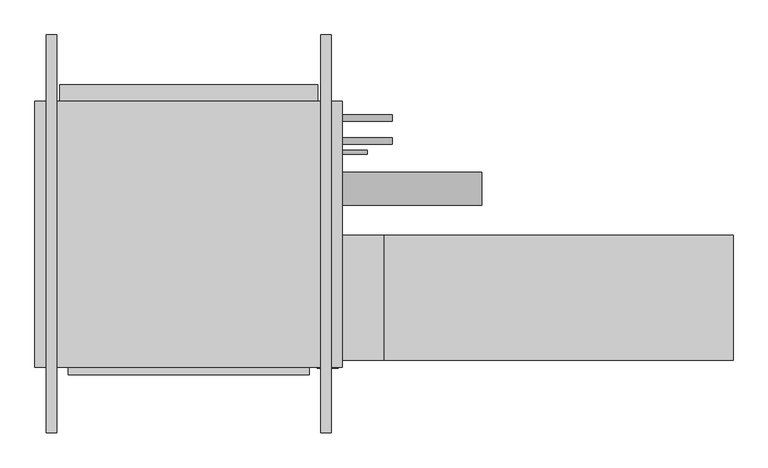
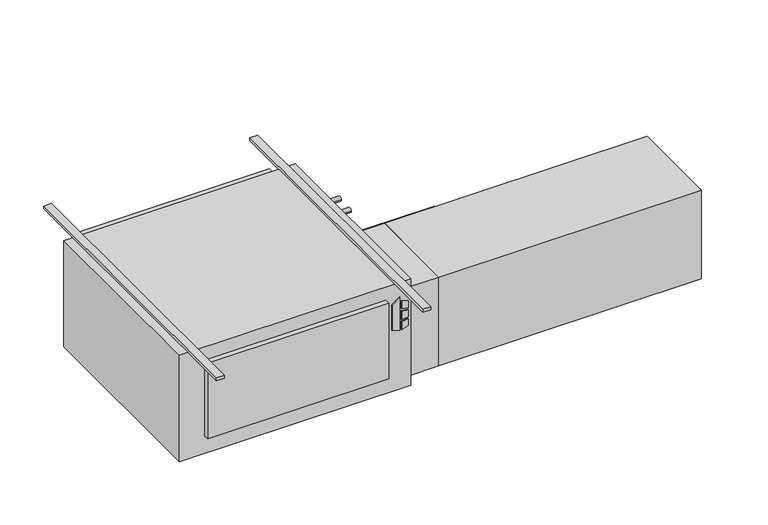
"""IFC4 building model written with IfcOpenShell, lengths in millimetres: proxy geometry."""

import ifcopenshell
import ifcopenshell.guid

model = None  # the IFC model being written
_history = None  # IfcOwnerHistory: only IFC2X3 demands one
_inside = {}  # id of a spatial element -> (the spatial element, [elements in it])
_under = {}  # id of a project, library or spatial element -> (it, [spatial elements below it])
_declared = {}  # id of a project -> (the project, [libraries it declares])
_typed = {}  # id of a type object -> (the type object, [elements of that type])
_made_of = {}  # id of a material, layer set ... -> (it, [elements and type objects made of it])


def new_model(schema):
    """Start an empty IFC model of exactly this schema.

    Asked for "IFC4X3", IfcOpenShell would pick the latest addendum, in which some entities
    have other attributes; the version numbers below select the first issue.
    IFC2X3 requires an IfcOwnerHistory on every rooted entity: one is made here for all.
    """
    global model, _history
    if schema == "IFC4X3":
        model = ifcopenshell.file(schema_version=(4, 3, 0, 0))
    else:
        model = ifcopenshell.file(schema=schema)
    _inside.clear()
    _under.clear()
    _declared.clear()
    _typed.clear()
    _made_of.clear()
    _history = None
    if model.schema == "IFC2X3":
        org = make("IfcOrganization", Name="unknown")
        user = make(
            "IfcPersonAndOrganization",
            ThePerson=make("IfcPerson", FamilyName="unknown"),
            TheOrganization=org,
        )
        app = make(
            "IfcApplication",
            ApplicationDeveloper=org,
            Version="unknown",
            ApplicationFullName="unknown",
            ApplicationIdentifier="unknown",
        )
        _history = make(
            "IfcOwnerHistory",
            OwningUser=user,
            OwningApplication=app,
            ChangeAction="ADDED",
            CreationDate=0,
        )
    return model


def make(cls, **values):
    """One entity of the class cls with the attributes given. An attribute that is None is left unset."""
    return model.create_entity(
        cls, **{name: value for name, value in values.items() if value is not None}
    )


def rooted(cls, **values):
    """An entity with a GlobalId (a new one), such as an element, a storey or a relation."""
    return make(cls, GlobalId=ifcopenshell.guid.new(), OwnerHistory=_history, **values)


def si_unit(unit_type, name, prefix=None):
    """IfcSIUnit, for example si_unit("LENGTHUNIT", "METRE", prefix="MILLI")."""
    return make("IfcSIUnit", UnitType=unit_type, Prefix=prefix, Name=name)


def assignment(units):
    """IfcUnitAssignment: the units of a project."""
    return None if units is None else make("IfcUnitAssignment", Units=units)


def point(xyz):
    """IfcCartesianPoint."""
    return None if xyz is None else make("IfcCartesianPoint", Coordinates=xyz)


def direction(xyz):
    """IfcDirection."""
    return None if xyz is None else make("IfcDirection", DirectionRatios=xyz)


def frame(location, z_axis=None, x_axis=None):
    """IfcAxis2Placement3D, a coordinate frame: its origin and axes. An axis left out is left unset."""
    return make(
        "IfcAxis2Placement3D",
        Location=point(location),
        Axis=direction(z_axis),
        RefDirection=direction(x_axis),
    )


def frame_2d(location, x_axis=None):
    """IfcAxis2Placement2D, a coordinate frame in the plane: its origin and x axis."""
    return make(
        "IfcAxis2Placement2D", Location=point(location), RefDirection=direction(x_axis)
    )


def origin():
    """The frame at (0, 0, 0) with its axes left unset."""
    return frame((0.0, 0.0, 0.0))


def origin_with_axes():
    """The frame at (0, 0, 0) with the z axis (0, 0, 1) and the x axis (1, 0, 0) written out."""
    return frame((0.0, 0.0, 0.0), z_axis=(0.0, 0.0, 1.0), x_axis=(1.0, 0.0, 0.0))


def place(relative_to, where):
    """IfcLocalPlacement: puts the frame where relative to a parent placement (None: the world)."""
    return make(
        "IfcLocalPlacement", PlacementRelTo=relative_to, RelativePlacement=where
    )


def context(
    kind, dimensions, precision=None, world=None, true_north=None, identifier=None
):
    """IfcGeometricRepresentationContext, for example the 3D "Model" context."""
    return make(
        "IfcGeometricRepresentationContext",
        ContextIdentifier=identifier,
        ContextType=kind,
        CoordinateSpaceDimension=dimensions,
        Precision=precision,
        WorldCoordinateSystem=world,
        TrueNorth=true_north,
    )


def project(units=None, contexts=None):
    """IfcProject with its units and contexts."""
    return rooted(
        "IfcProject",
        Name="project",
        RepresentationContexts=contexts,
        UnitsInContext=assignment(units),
    )


def spatial(cls, under=None, at=None, **own):
    """A site, building, storey or space (cls), placed at a placement, below another one or the project."""
    s = rooted(cls, ObjectPlacement=at, **own)
    if under is not None:
        _under.setdefault(under.id(), (under, []))[1].append(s)
    return s


def polyline(points):
    """IfcPolyline through the points."""
    return make("IfcPolyline", Points=[point(p) for p in points])


def circle_curve(where, radius):
    """IfcCircle in the frame where."""
    return make("IfcCircle", Position=where, Radius=radius)


def trimmed(basis, trim1, trim2, sense, master):
    """IfcTrimmedCurve: the piece of a basis curve between two trims."""
    return make(
        "IfcTrimmedCurve",
        BasisCurve=basis,
        Trim1=trim1,
        Trim2=trim2,
        SenseAgreement=sense,
        MasterRepresentation=master,
    )


def segment(curve, same_sense, transition):
    """IfcCompositeCurveSegment."""
    return make(
        "IfcCompositeCurveSegment",
        Transition=transition,
        SameSense=same_sense,
        ParentCurve=curve,
    )


def composite_curve(segments, self_intersect=None):
    """IfcCompositeCurve: segments joined end to end."""
    return make("IfcCompositeCurve", Segments=segments, SelfIntersect=self_intersect)


def outline(outer, holes=None, kind="AREA"):
    """IfcArbitraryClosedProfileDef: a profile drawn as a closed curve; with holes, ...WithVoids."""
    if holes is None:
        return make("IfcArbitraryClosedProfileDef", ProfileType=kind, OuterCurve=outer)
    return make(
        "IfcArbitraryProfileDefWithVoids",
        ProfileType=kind,
        OuterCurve=outer,
        InnerCurves=holes,
    )


def extrude(swept, where, along, depth):
    """IfcExtrudedAreaSolid: the profile swept, set in the frame where, extruded along a direction by depth."""
    return make(
        "IfcExtrudedAreaSolid",
        SweptArea=swept,
        Position=where,
        ExtrudedDirection=direction(along),
        Depth=depth,
    )


def shape(context_of_items, identifier, shape_type, items):
    """IfcShapeRepresentation: the items that make up one representation, for example the "Body"."""
    return make(
        "IfcShapeRepresentation",
        ContextOfItems=context_of_items,
        RepresentationIdentifier=identifier,
        RepresentationType=shape_type,
        Items=items,
    )


def source(mapping_origin, context_of_items, identifier, shape_type, items):
    """IfcRepresentationMap: a shape defined once, which mapped items show again and again."""
    return make(
        "IfcRepresentationMap",
        MappingOrigin=mapping_origin,
        MappedRepresentation=shape(context_of_items, identifier, shape_type, items),
    )


def transform(
    local_origin,
    x_axis=None,
    y_axis=None,
    z_axis=None,
    scale=None,
    scale2=None,
    scale3=None,
    uniform=True,
):
    """IfcCartesianTransformationOperator3D, or its non-uniform kind. x_axis, y_axis, z_axis: its Axis1, 2, 3."""
    if uniform:
        return make(
            "IfcCartesianTransformationOperator3D",
            Axis1=direction(x_axis),
            Axis2=direction(y_axis),
            LocalOrigin=point(local_origin),
            Scale=scale,
            Axis3=direction(z_axis),
        )
    return make(
        "IfcCartesianTransformationOperator3DnonUniform",
        Axis1=direction(x_axis),
        Axis2=direction(y_axis),
        LocalOrigin=point(local_origin),
        Scale=scale,
        Axis3=direction(z_axis),
        Scale2=scale2,
        Scale3=scale3,
    )


def mapped(mapping_source, mapping_target):
    """IfcMappedItem: shows the shape of a source again, moved by a transform."""
    return make(
        "IfcMappedItem", MappingSource=mapping_source, MappingTarget=mapping_target
    )


def made_of(thing, what):
    """Note that an element or type object is made of a material, layer set ...; save() writes the relation."""
    if what is not None:
        _made_of.setdefault(what.id(), (what, []))[1].append(thing)
    return thing


def element(
    cls,
    number,
    at=None,
    inside=None,
    cuts=None,
    type_object=None,
    material=None,
    context=None,
    identifier="Body",
    shape_type=None,
    held_by="IfcProductDefinitionShape",
    body=None,
    shapes=None,
    **own,
):
    """One element of the class cls, such as IfcWall. Its Tag is "e" and its number.

    at: its placement. inside: the storey or other place that contains it. cuts: it is an
    opening in that element (IfcRelVoidsElement). A single representation is given by context,
    identifier, shape_type and body (its items); several are given by shapes. held_by: the class
    of the entity that holds the representations. save() writes the other relations.
    """
    e = rooted(cls, Tag="e%d" % number, ObjectPlacement=at, **own)
    if body is not None:
        shapes = [shape(context, identifier, shape_type, body)]
    if shapes is not None:
        e.Representation = make(held_by, Representations=shapes)
    if inside is not None:
        _inside.setdefault(inside.id(), (inside, []))[1].append(e)
    if cuts is not None:
        rooted(
            "IfcRelVoidsElement", RelatingBuildingElement=cuts, RelatedOpeningElement=e
        )
    if type_object is not None:
        _typed.setdefault(type_object.id(), (type_object, []))[1].append(e)
    return made_of(e, material)


def aggregate(whole, parts):
    """IfcRelAggregates: a whole, such as a stair, and the parts it consists of."""
    return rooted("IfcRelAggregates", RelatingObject=whole, RelatedObjects=parts)


def save(model, path):
    """Write the relations noted so far, then the file.

    IfcRelAggregates (storeys below a building ...), IfcRelContainedInSpatialStructure (elements
    in a storey), IfcRelDefinesByType, IfcRelAssociatesMaterial and IfcRelDeclares: one each for
    every whole, place, type object, material and project.
    """
    for whole, parts in _under.values():
        aggregate(whole, parts)
    for where, things in _inside.values():
        rooted(
            "IfcRelContainedInSpatialStructure",
            RelatedElements=things,
            RelatingStructure=where,
        )
    for kind, things in _typed.values():
        rooted("IfcRelDefinesByType", RelatedObjects=things, RelatingType=kind)
    for what, things in _made_of.values():
        rooted("IfcRelAssociatesMaterial", RelatedObjects=things, RelatingMaterial=what)
    for by, libraries in _declared.values():
        rooted("IfcRelDeclares", RelatingContext=by, RelatedDefinitions=libraries)
    model.write(path)


def mechanical_equipment_4312a383(model_context):
    return source(origin(), model_context, "Body", "SweptSolid", [
        extrude(outline(polyline([(-193.2519297, 544.5868862), (-203.2, 576.7602728), (-61.0290756, 576.7602728), (-84.0510817, 544.5868862), (-193.2519297, 544.5868862)])), frame((0.0, -647.7, 0.0), z_axis=(0.0, 1.0, 0.0), x_axis=(0.0, 0.0, 1.0)), (0.0, 0.0, 1.0), 3.175),
        extrude(outline(polyline([(-114.2526443, 583.5186058), (-117.4550368, 609.6), (-88.2261958, 609.6), (-80.1617807, 583.5186058), (-114.2526443, 583.5186058)])), frame((0.0, -647.7, 0.0), z_axis=(0.0, 1.0, 0.0), x_axis=(0.0, 0.0, 1.0)), (0.0, 0.0, 1.0), 3.175),
        extrude(outline(polyline([(-166.1161712, 609.6), (-169.7816721, 583.5186058), (-203.2, 583.5186058), (-194.5657628, 609.6), (-166.1161712, 609.6)])), frame((0.0, -647.7, 0.0), z_axis=(0.0, 1.0, 0.0), x_axis=(0.0, 0.0, 1.0)), (0.0, 0.0, 1.0), 3.175),
        extrude(outline(polyline([(-126.8010097, 609.6), (-124.5191834, 583.5186058), (-160.4567319, 583.5186058), (-157.7154669, 609.6), (-126.8010097, 609.6)])), frame((0.0, -647.7, 0.0), z_axis=(0.0, 1.0, 0.0), x_axis=(0.0, 0.0, 1.0)), (0.0, 0.0, 1.0), 3.175),
        extrude(outline(polyline([(520.7, -666.877), (-215.9, -666.877), (-215.9, -644.525), (520.7, -644.525), (520.7, -666.877)])), frame((0.0, 0.0, -381.0), z_axis=(0.0, 0.0, 1.0), x_axis=(1.0, 0.0, 0.0)), (0.0, 0.0, 1.0), 323.85),
        extrude(outline(polyline([(1816.1, -241.3), (1816.1, -622.3), (749.3, -622.3), (749.3, -241.3), (1816.1, -241.3)])), frame((0.0, 0.0, -431.8), z_axis=(0.0, 0.0, 1.0), x_axis=(1.0, 0.0, 0.0)), (0.0, 0.0, 1.0), 381.0),
        extrude(outline(polyline([(749.3, -241.3), (749.3, -622.3), (622.3, -622.3), (622.3, -241.3), (749.3, -241.3)])), frame((0.0, 0.0, -431.8), z_axis=(0.0, 0.0, 1.0), x_axis=(1.0, 0.0, 0.0)), (0.0, 0.0, 1.0), 381.0),
        extrude(outline(composite_curve([segment(trimmed(circle_curve(frame_2d((117.475, -171.45)), 9.525), [point((127.0, -171.45))], [point((107.95, -171.45))], False, "CARTESIAN"), True, "CONTINUOUS"), segment(trimmed(circle_curve(frame_2d((117.475, -171.45)), 9.525), [point((107.95, -171.45))], [point((127.0, -171.45))], False, "CARTESIAN"), True, "CONTINUOUS")], self_intersect=False)), frame((622.3, 0.0, 0.0), z_axis=(1.0, 0.0, 0.0), x_axis=(0.0, 1.0, 0.0)), (0.0, 0.0, 1.0), 152.4),
        extrude(outline(composite_curve([segment(trimmed(circle_curve(frame_2d((47.625, -177.8)), 9.525), [point((57.15, -177.8))], [point((38.1, -177.8))], False, "CARTESIAN"), True, "CONTINUOUS"), segment(trimmed(circle_curve(frame_2d((47.625, -177.8)), 9.525), [point((38.1, -177.8))], [point((57.15, -177.8))], False, "CARTESIAN"), True, "CONTINUOUS")], self_intersect=False)), frame((622.3, 0.0, 0.0), z_axis=(1.0, 0.0, 0.0), x_axis=(0.0, 1.0, 0.0)), (0.0, 0.0, 1.0), 152.4),
        extrude(outline(composite_curve([segment(trimmed(circle_curve(frame_2d((-98.4896516, -228.6360165)), 50.8), [point((-47.6896516, -228.6360165))], [point((-149.2896516, -228.6360165))], False, "CARTESIAN"), True, "CONTINUOUS"), segment(trimmed(circle_curve(frame_2d((-98.4896516, -228.6360165)), 50.8), [point((-149.2896516, -228.6360165))], [point((-47.6896516, -228.6360165))], False, "CARTESIAN"), True, "CONTINUOUS")], self_intersect=False)), frame((622.3, 0.0, 0.0), z_axis=(1.0, 0.0, 0.0), x_axis=(0.0, 1.0, 0.0)), (0.0, 0.0, 1.0), 425.45),
        extrude(outline(composite_curve([segment(trimmed(circle_curve(frame_2d((12.7, -409.575)), 6.35), [point((19.05, -409.575))], [point((6.35, -409.575))], False, "CARTESIAN"), True, "CONTINUOUS"), segment(trimmed(circle_curve(frame_2d((12.7, -409.575)), 6.35), [point((6.35, -409.575))], [point((19.05, -409.575))], False, "CARTESIAN"), True, "CONTINUOUS")], self_intersect=False)), frame((622.3, 0.0, 0.0), z_axis=(1.0, 0.0, 0.0), x_axis=(0.0, 1.0, 0.0)), (0.0, 0.0, 1.0), 76.2),
        extrude(outline(polyline([(622.3, 168.275), (622.3, -644.525), (-317.5, -644.525), (-317.5, 168.275), (622.3, 168.275)])), frame((0.0, 0.0, -457.2), z_axis=(0.0, 0.0, 1.0), x_axis=(1.0, 0.0, 0.0)), (0.0, 0.0, 1.0), 457.2),
        extrude(outline(polyline([(-241.3, 219.075), (546.1, 219.075), (546.1, 168.275), (-241.3, 168.275), (-241.3, 219.075)])), frame((0.0, 0.0, -381.0), z_axis=(0.0, 0.0, 1.0), x_axis=(1.0, 0.0, 0.0)), (0.0, 0.0, 1.0), 355.6),
        extrude(outline(polyline([(-250.825, 371.475), (-250.825, -844.677), (-282.575, -844.677), (-282.575, 371.475), (-250.825, 371.475)])), origin_with_axes(), (0.0, 0.0, 1.0), 12.7),
        extrude(outline(polyline([(587.375, 371.475), (587.375, -844.677), (555.625, -844.677), (555.625, 371.475), (587.375, 371.475)])), origin_with_axes(), (0.0, 0.0, 1.0), 12.7),
    ])


if __name__ == "__main__":
    model = new_model("IFC4")
    model_context = context("Model", 3, world=origin())
    ifc_project = project(units=[si_unit("LENGTHUNIT", "METRE", prefix="MILLI")], contexts=[model_context])
    site = spatial("IfcSite", under=ifc_project)
    building = spatial("IfcBuilding", under=site)
    placement = place(None, origin())
    mechanical_equipment_shape = mechanical_equipment_4312a383(model_context)
    element("IfcBuildingElementProxy", 1, Name="High_Capacity_Horizontal_Cabinet_Fan_Coil_Unit_-_HTY_-_IEC_-_2-Pipe_RH Side_2022 : Size 12 - 115v/60Hz/1Ph - 4/0 Coil - 4\" AirIn", ObjectType="High_Capacity_Horizontal_Cabinet_Fan_Coil_Unit_-_HTY_-_IEC_-_2-Pipe_RH Side_2022 : Size 12 - 115v/60Hz/1Ph - 4/0 Coil - 4\" AirIn", at=placement, inside=building, context=model_context, shape_type="MappedRepresentation", body=[
        mapped(mechanical_equipment_shape, transform((0.0, 0.0, 0.0), x_axis=(1.0, 0.0, 0.0), y_axis=(0.0, 1.0, 0.0), z_axis=(0.0, 0.0, 1.0))),
    ])
    save(model, "model.ifc")
